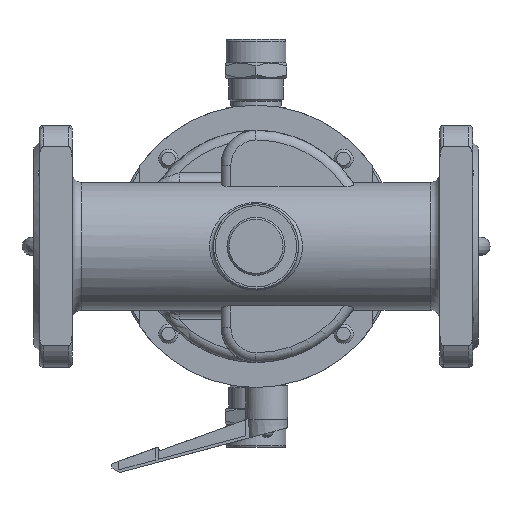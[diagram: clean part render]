
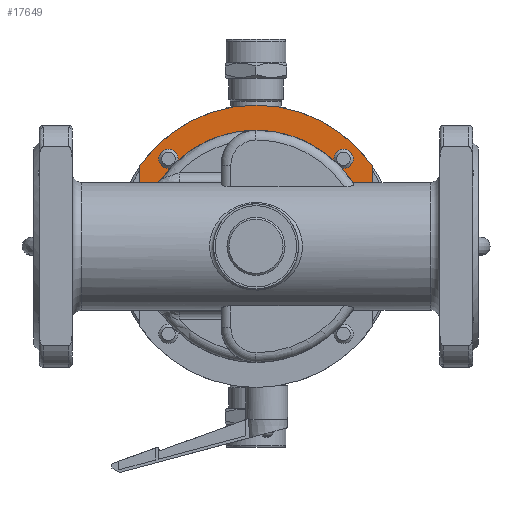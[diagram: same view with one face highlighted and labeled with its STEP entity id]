
A CAD part, front view. The second image highlights one B-rep face of the part: STEP entity #17649.
In plain terms, the highlighted planar face has unit normal (0, -1, 0).
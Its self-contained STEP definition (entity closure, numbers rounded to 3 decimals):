
#17649=ADVANCED_FACE('',(#38446),#38448,.F.);
#38446=FACE_BOUND('',#38447,.T.);
#38447=EDGE_LOOP('',(#66561,#66562,#66563,#66564,#66565,#66566,#66567,#66568,#66569,
#66570));
#38448=PLANE('',#38449);
#38449=AXIS2_PLACEMENT_3D('',#38450,#38451,#38452);
#38450=CARTESIAN_POINT('',(0.,33.,0.));
#38451=DIRECTION('',(0.,1.,0.));
#38452=DIRECTION('',(1.,0.,0.));
#66561=ORIENTED_EDGE('',*,*,#77198,.T.);
#66562=ORIENTED_EDGE('',*,*,#77199,.T.);
#66563=ORIENTED_EDGE('',*,*,#77200,.T.);
#66564=ORIENTED_EDGE('',*,*,#77201,.T.);
#66565=ORIENTED_EDGE('',*,*,#77110,.F.);
#66566=ORIENTED_EDGE('',*,*,#77108,.F.);
#66567=ORIENTED_EDGE('',*,*,#77106,.F.);
#66568=ORIENTED_EDGE('',*,*,#77197,.T.);
#66569=ORIENTED_EDGE('',*,*,#77202,.F.);
#66570=ORIENTED_EDGE('',*,*,#77203,.T.);
#77106=EDGE_CURVE('',#89451,#89453,#89454,.T.);
#77108=EDGE_CURVE('',#89453,#89456,#89457,.T.);
#77110=EDGE_CURVE('',#89456,#89459,#89460,.T.);
#77197=EDGE_CURVE('',#89451,#89624,#89626,.F.);
#77198=EDGE_CURVE('',#89627,#89628,#89629,.T.);
#77199=EDGE_CURVE('',#89628,#89630,#89631,.T.);
#77200=EDGE_CURVE('',#89630,#89632,#89633,.T.);
#77201=EDGE_CURVE('',#89632,#89459,#89634,.T.);
#77202=EDGE_CURVE('',#89635,#89624,#89636,.T.);
#77203=EDGE_CURVE('',#89635,#89627,#89637,.T.);
#89451=VERTEX_POINT('',#120472);
#89453=VERTEX_POINT('',#120476);
#89454=LINE('',#120477,#120478);
#89456=VERTEX_POINT('',#120483);
#89457=CIRCLE('',#120484,73.);
#89459=VERTEX_POINT('',#120491);
#89460=LINE('',#120492,#120493);
#89624=VERTEX_POINT('',#122032);
#89626=LINE('',#122036,#122037);
#89627=VERTEX_POINT('',#122039);
#89628=VERTEX_POINT('',#122040);
#89629=CIRCLE('',#122041,5.);
#89630=VERTEX_POINT('',#122045);
#89631=CIRCLE('',#122046,60.);
#89632=VERTEX_POINT('',#122050);
#89633=CIRCLE('',#122051,5.);
#89634=CIRCLE('',#122055,60.);
#89635=VERTEX_POINT('',#122059);
#89636=CIRCLE('',#122060,5.);
#89637=CIRCLE('',#122064,60.);
#120472=CARTESIAN_POINT('',(-60.,33.,33.));
#120476=CARTESIAN_POINT('',(-60.,33.,41.581));
#120477=CARTESIAN_POINT('',(-60.,33.,33.));
#120478=VECTOR('',#120479,1.);
#120479=DIRECTION('',(0.,0.,1.));
#120483=CARTESIAN_POINT('',(60.,33.,41.581));
#120484=AXIS2_PLACEMENT_3D('',#120485,#120486,#120487);
#120485=CARTESIAN_POINT('',(0.,33.,0.));
#120486=DIRECTION('',(0.,1.,0.));
#120487=DIRECTION('',(-0.822,0.,0.57));
#120491=CARTESIAN_POINT('',(60.,33.,0.));
#120492=CARTESIAN_POINT('',(60.,33.,41.581));
#120493=VECTOR('',#120494,1.);
#120494=DIRECTION('',(0.,0.,-1.));
#122032=CARTESIAN_POINT('',(-52.735,33.,33.));
#122036=CARTESIAN_POINT('',(-52.735,33.,33.));
#122037=VECTOR('',#122038,1.);
#122038=DIRECTION('',(-1.,0.,0.));
#122039=CARTESIAN_POINT('',(-44.43,33.,40.323));
#122040=CARTESIAN_POINT('',(-40.323,33.,44.43));
#122041=AXIS2_PLACEMENT_3D('',#122042,#122043,#122044);
#122042=CARTESIAN_POINT('',(-45.255,33.,45.255));
#122043=DIRECTION('',(0.,1.,0.));
#122044=DIRECTION('',(0.165,0.,-0.986));
#122045=CARTESIAN_POINT('',(40.323,33.,44.43));
#122046=AXIS2_PLACEMENT_3D('',#122047,#122048,#122049);
#122047=CARTESIAN_POINT('',(0.,33.,0.));
#122048=DIRECTION('',(0.,1.,0.));
#122049=DIRECTION('',(-0.672,0.,0.741));
#122050=CARTESIAN_POINT('',(44.43,33.,40.323));
#122051=AXIS2_PLACEMENT_3D('',#122052,#122053,#122054);
#122052=CARTESIAN_POINT('',(45.255,33.,45.255));
#122053=DIRECTION('',(0.,1.,0.));
#122054=DIRECTION('',(-0.986,0.,-0.165));
#122055=AXIS2_PLACEMENT_3D('',#122056,#122057,#122058);
#122056=CARTESIAN_POINT('',(0.,33.,0.));
#122057=DIRECTION('',(0.,1.,0.));
#122058=DIRECTION('',(0.741,0.,0.672));
#122059=CARTESIAN_POINT('',(-48.679,33.,35.077));
#122060=AXIS2_PLACEMENT_3D('',#122061,#122062,#122063);
#122061=CARTESIAN_POINT('',(-52.735,33.,38.));
#122062=DIRECTION('',(0.,1.,0.));
#122063=DIRECTION('',(0.811,0.,-0.585));
#122064=AXIS2_PLACEMENT_3D('',#122065,#122066,#122067);
#122065=CARTESIAN_POINT('',(0.,33.,0.));
#122066=DIRECTION('',(0.,1.,0.));
#122067=DIRECTION('',(-0.811,0.,0.585));
